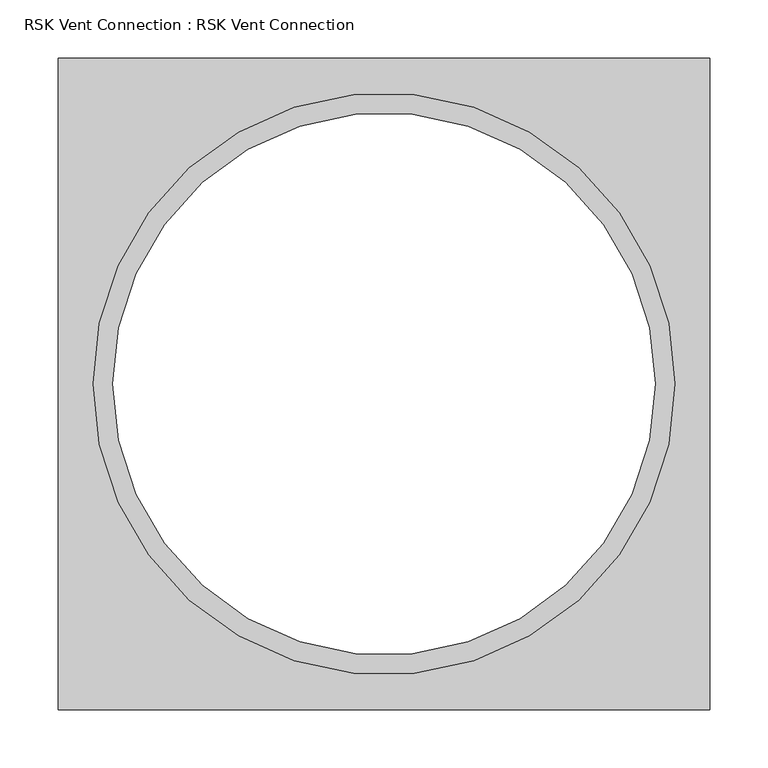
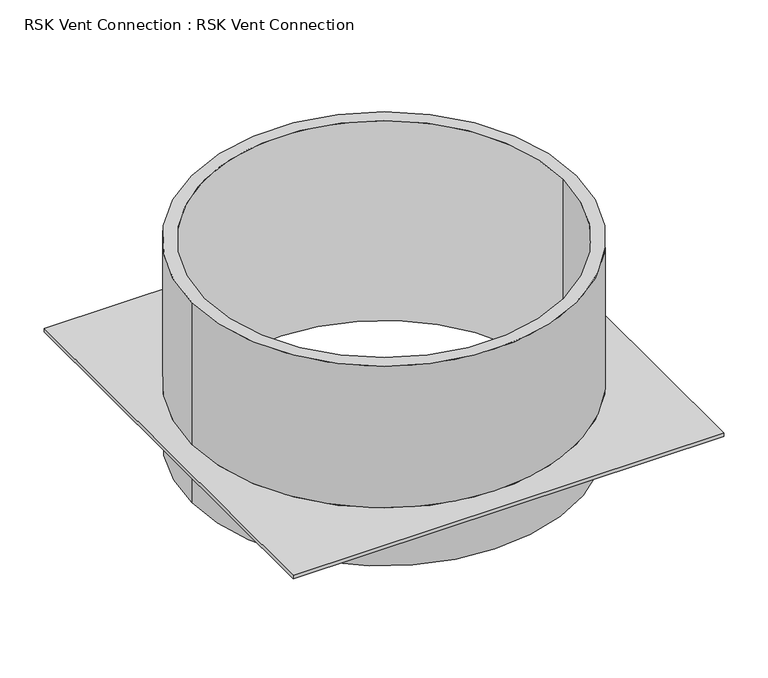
"""IFC4 building model written with IfcOpenShell, lengths in millimetres: proxy geometry, RSK Vent Connection : RSK Vent Connection."""

from ifc_helpers import new_model, si_unit, frame, origin, place, context, project, spatial, polyline, circle_curve, source, transform, mapped, element, save
from ifc_brep_helpers import plane_surface, cylinder_surface, revolved_surface, advanced_brep


def rsk_vent_connection_rsk_vent_connection_a1d08d05(model_context):
    return source(origin(), model_context, "Body", "AdvancedBrep", [
        advanced_brep(
        [(280.0, -280.0, 5.0), (280.0, 280.0, 5.0), (-280.0, 280.0, 5.0), (-280.0, -280.0, 5.0), (-250.0, 0.0, 5.0), (250.0, 0.0, 5.0), (280.0, -280.0, 0.0), (-280.0, -280.0, 0.0), (-280.0, 280.0, 0.0), (280.0, 280.0, 0.0), (250.0, 0.0, 0.0), (-250.0, 0.0, 0.0), (250.0, 0.0, 200.0), (-250.0, 0.0, 200.0), (233.0, 0.0, 200.0), (-233.0, 0.0, 200.0), (250.0, 0.0, -75.0), (-250.0, 0.0, -75.0), (233.0, 0.0, -75.0), (-233.0, 0.0, -75.0)],
        [
            (0, 1),
            (1, 2),
            (2, 3),
            (3, 0),
            (4, 5, circle_curve(frame((0.0, 0.0, 5.0), z_axis=(0.0, 0.0, -1.0), x_axis=(-1.0, 0.0, 0.0)), 250.0)),
            (5, 4, circle_curve(frame((0.0, 0.0, 5.0), z_axis=(0.0, 0.0, -1.0), x_axis=(-1.0, 0.0, 0.0)), 250.0)),
            (6, 7),
            (7, 8),
            (8, 9),
            (9, 6),
            (10, 11, circle_curve(frame((0.0, 0.0, 0.0), z_axis=(0.0, 0.0, 1.0), x_axis=(-1.0, 0.0, 0.0)), 250.0)),
            (11, 10, circle_curve(frame((0.0, 0.0, 0.0), z_axis=(0.0, 0.0, 1.0), x_axis=(-1.0, 0.0, 0.0)), 250.0)),
            (0, 6),
            (9, 1),
            (8, 2),
            (7, 3),
            (12, 13, circle_curve(frame((0.0, 0.0, 200.0), z_axis=(0.0, 0.0, 1.0), x_axis=(-1.0, 0.0, 0.0)), 250.0)),
            (13, 12, circle_curve(frame((0.0, 0.0, 200.0), z_axis=(0.0, 0.0, 1.0), x_axis=(-1.0, 0.0, 0.0)), 250.0)),
            (14, 15, circle_curve(frame((0.0, 0.0, 200.0), z_axis=(0.0, 0.0, -1.0), x_axis=(-1.0, 0.0, 0.0)), 233.0)),
            (15, 14, circle_curve(frame((0.0, 0.0, 200.0), z_axis=(0.0, 0.0, -1.0), x_axis=(-1.0, 0.0, 0.0)), 233.0)),
            (16, 17, circle_curve(frame((0.0, 0.0, -75.0), z_axis=(0.0, 0.0, -1.0), x_axis=(-1.0, 0.0, 0.0)), 250.0)),
            (17, 16, circle_curve(frame((0.0, 0.0, -75.0), z_axis=(0.0, 0.0, -1.0), x_axis=(-1.0, 0.0, 0.0)), 250.0)),
            (18, 19, circle_curve(frame((0.0, 0.0, -75.0), z_axis=(0.0, 0.0, 1.0), x_axis=(-1.0, 0.0, 0.0)), 233.0)),
            (19, 18, circle_curve(frame((0.0, 0.0, -75.0), z_axis=(0.0, 0.0, 1.0), x_axis=(-1.0, 0.0, 0.0)), 233.0)),
            (12, 5),
            (4, 13),
            (17, 11),
            (10, 16),
            (14, 18),
            (19, 15),
        ],
        [
            plane_surface(frame((280.0, -280.0, 5.0), z_axis=(0.0, 0.0, 1.0), x_axis=(0.0, 1.0, 0.0))),
            plane_surface(frame((280.0, -280.0, 0.0), z_axis=(0.0, 0.0, -1.0), x_axis=(0.0, -1.0, 0.0))),
            plane_surface(frame((280.0, -280.0, 5.0), z_axis=(1.0, 0.0, 0.0), x_axis=(0.0, 0.0, -1.0))),
            plane_surface(frame((280.0, 280.0, 5.0), z_axis=(0.0, 1.0, 0.0), x_axis=(0.0, 0.0, -1.0))),
            plane_surface(frame((-280.0, 280.0, 5.0), z_axis=(-1.0, 0.0, 0.0), x_axis=(0.0, 0.0, -1.0))),
            plane_surface(frame((-280.0, -280.0, 5.0), z_axis=(0.0, -1.0, 0.0), x_axis=(0.0, 0.0, -1.0))),
            plane_surface(frame((-250.0, 0.0, 200.0), z_axis=(0.0, 0.0, 1.0), x_axis=(0.0, -1.0, 0.0))),
            plane_surface(frame((-250.0, 0.0, -75.0), z_axis=(0.0, 0.0, -1.0), x_axis=(0.0, 1.0, 0.0))),
            cylinder_surface(frame((0.0, 0.0, -75.0), z_axis=(0.0, 0.0, 1.0), x_axis=(-1.0, 0.0, 0.0)), 250.0),
            revolved_surface(polyline([(-233.0, 0.0, -75.0), (-233.0, 0.0, 200.0)]), (0.0, 0.0, -75.0), (0.0, 0.0, -1.0)),
        ],
        [
            (0, [[1, 2, 3, 4], [5, 6]]),
            (1, [[7, 8, 9, 10], [11, 12]]),
            (2, [[-1, 13, -10, 14]]),
            (3, [[-2, -14, -9, 15]]),
            (4, [[-3, -15, -8, 16]]),
            (5, [[-4, -16, -7, -13]]),
            (6, [[17, 18], [19, 20]]),
            (7, [[21, 22], [23, 24]]),
            (8, [[-17, 25, -5, 26]]),
            (8, [[-22, 27, -11, 28]]),
            (8, [[-18, -26, -6, -25]]),
            (8, [[-21, -28, -12, -27]]),
            (9, [[-19, 29, -24, 30]]),
            (9, [[-20, -30, -23, -29]]),
        ],
    ),
    ])


if __name__ == "__main__":
    model = new_model("IFC4")
    model_context = context("Model", 3, world=origin())
    ifc_project = project(units=[si_unit("LENGTHUNIT", "METRE", prefix="MILLI")], contexts=[model_context])
    site = spatial("IfcSite", under=ifc_project)
    building = spatial("IfcBuilding", under=site)
    placement = place(None, origin())
    rsk_vent_connection_rsk_vent_connection_shape = rsk_vent_connection_rsk_vent_connection_a1d08d05(model_context)
    element("IfcBuildingElementProxy", 1, Name="RSK Vent Connection : RSK Vent Connection", ObjectType="RSK Vent Connection : RSK Vent Connection", at=placement, inside=building, context=model_context, shape_type="MappedRepresentation", body=[
        mapped(rsk_vent_connection_rsk_vent_connection_shape, transform((0.0, 0.0, 0.0), x_axis=(1.0, 0.0, 0.0), y_axis=(0.0, 1.0, 0.0), z_axis=(0.0, 0.0, 1.0))),
    ])
    save(model, "model.ifc")
